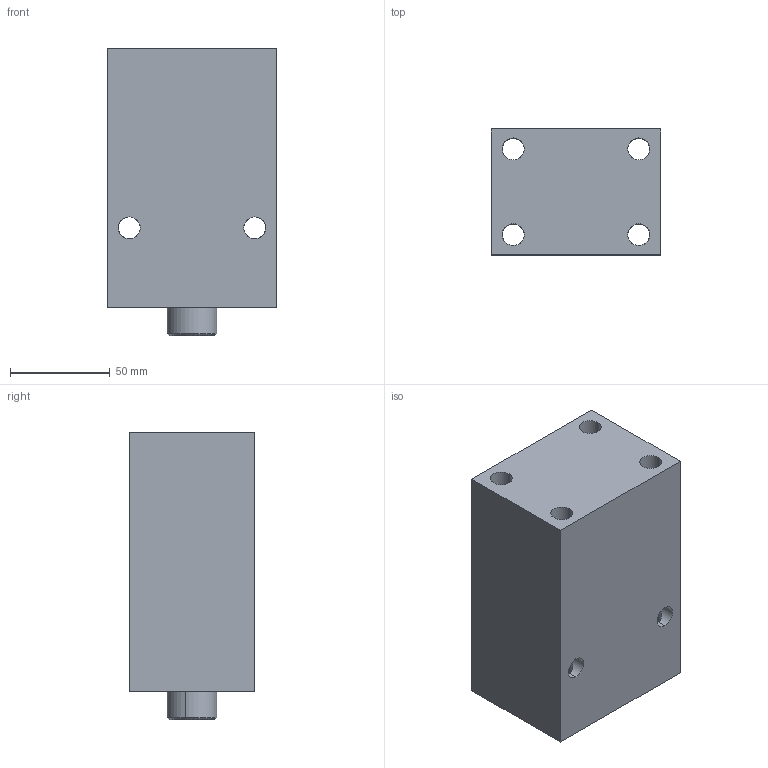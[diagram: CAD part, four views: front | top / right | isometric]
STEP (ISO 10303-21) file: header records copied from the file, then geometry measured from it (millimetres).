
FILE_DESCRIPTION (( 'STEP AP203' ), '1' );
FILE_NAME ('Block cylinder_B01C-375F.STEP', '2022-07-09T18:30:00', ( '' ), ( '' ), 'SwSTEP 2.0', 'SolidWorks 2017', '' );
FILE_SCHEMA (( 'CONFIG_CONTROL_DESIGN' ));
Length unit declared in the file: millimetre
Products named in the file (3): Body_375F_50ST; Piston_375F_50sT; Block cylinder_B01C-375F
Assembly tree (2 placements, depth 2):
  Block cylinder_B01C-375F
    Body_375F_50ST
    Piston_375F_50sT
Bounding box: 85 x 63 x 144 mm (x, y, z)
Volume: 658844.4 mm3; surface area: 85098.4 mm2
Topology: 2 solids, 2 shells, 342 faces, 937 edges, 611 vertices
Faces by surface type: bspline 151, plane 139, cylinder 44, cone 8
Entity records: 17092 total; most frequent: CARTESIAN_POINT 9208, ORIENTED_EDGE 1862, DIRECTION 1047, EDGE_CURVE 931, VERTEX_POINT 611, VECTOR 539, LINE 539, EDGE_LOOP 380
